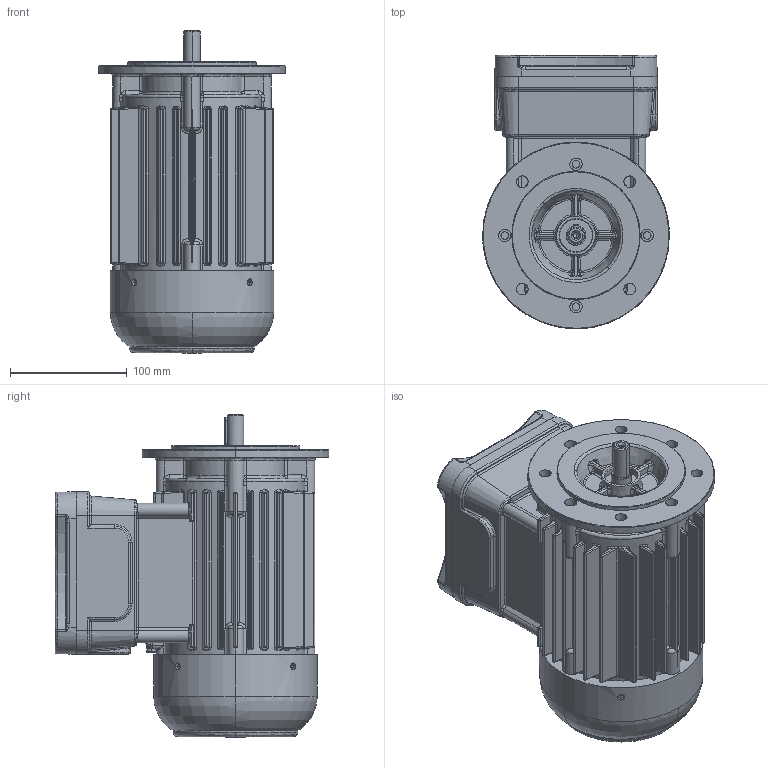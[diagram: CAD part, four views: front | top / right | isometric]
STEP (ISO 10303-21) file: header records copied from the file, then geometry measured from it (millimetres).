
FILE_DESCRIPTION (( 'STEP AP214' ), '1' );
FILE_NAME ('6RD71A4E2 IM3001.STEP', '2021-10-01T10:20:35', ( '' ), ( '' ), 'SwSTEP 2.0', 'SolidWorks 2018', '' );
FILE_SCHEMA (( 'AUTOMOTIVE_DESIGN' ));
Length unit declared in the file: millimetre
Products named in the file (1): 6RD71A4E2 IM3001
Bounding box: 160 x 234.5 x 276.21 mm (x, y, z)
Volume: 4734132.2 mm3; surface area: 301151.2 mm2
Topology: 14 solids, 14 shells, 1638 faces, 4010 edges, 2394 vertices
Faces by surface type: cylinder 638, bspline 581, plane 354, cone 64, torus 1
Entity records: 95443 total; most frequent: CARTESIAN_POINT 63420, ORIENTED_EDGE 7888, DIRECTION 4871, EDGE_CURVE 3944, VERTEX_POINT 2394, AXIS2_PLACEMENT_3D 1852, EDGE_LOOP 1710, FACE_OUTER_BOUND 1638
